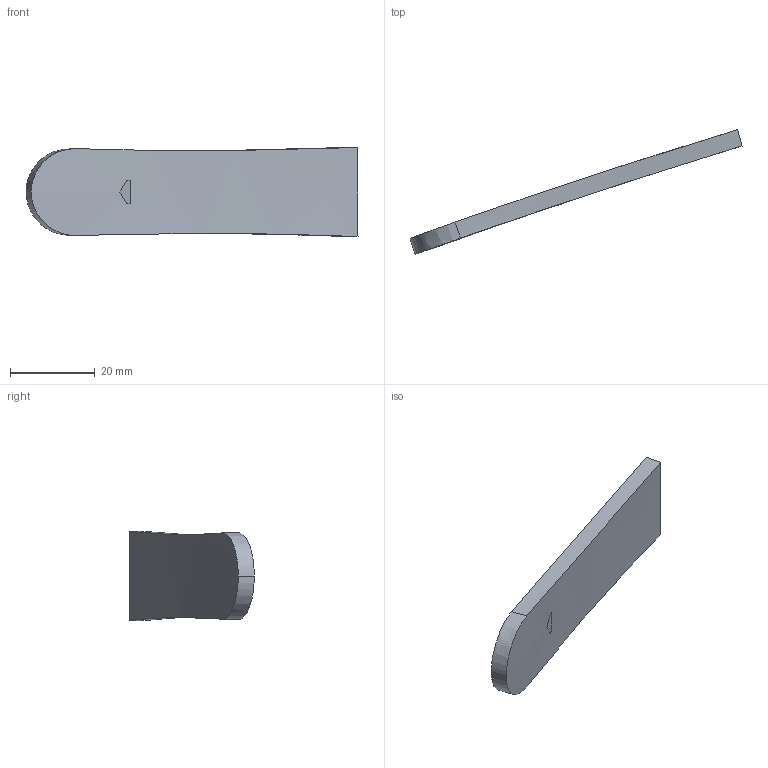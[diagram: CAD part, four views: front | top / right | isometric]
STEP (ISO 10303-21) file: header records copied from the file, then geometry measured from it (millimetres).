
FILE_DESCRIPTION(/* description */ (''),/* implementation_level */ '2;1');
FILE_NAME(/* name */ 'C:/Users/danie/Dropbox/OpenRC Formula 1 STL files/Dual Extrusion Files/Nose Upper.stp',/* time_stamp */ '2016-05-30T22:49:25+02:00',/* author */ (''),/* organization */ (''),/* preprocessor_version */ 'ST-DEVELOPER v16.5',/* originating_system */ 'Autodesk Translation Framework v5.0.0.3310',/* authorisation */ '');
FILE_SCHEMA (('AUTOMOTIVE_DESIGN { 1 0 10303 214 3 1 1 }'));
Length unit declared in the file: centimetre
Products named in the file (1): Nose Upper
Bounding box: 78.53 x 29.48 x 21.14 mm (x, y, z)
Volume: 6338.2 mm3; surface area: 3954.8 mm2
Topology: 1 solids, 1 shells, 15 faces, 36 edges, 24 vertices
Faces by surface type: bspline 8, plane 6, cylinder 1
Entity records: 794 total; most frequent: CARTESIAN_POINT 471, ORIENTED_EDGE 72, EDGE_CURVE 36, DIRECTION 35, VERTEX_POINT 24, B_SPLINE_CURVE_WITH_KNOTS 21, EDGE_LOOP 16, FACE_OUTER_BOUND 15
